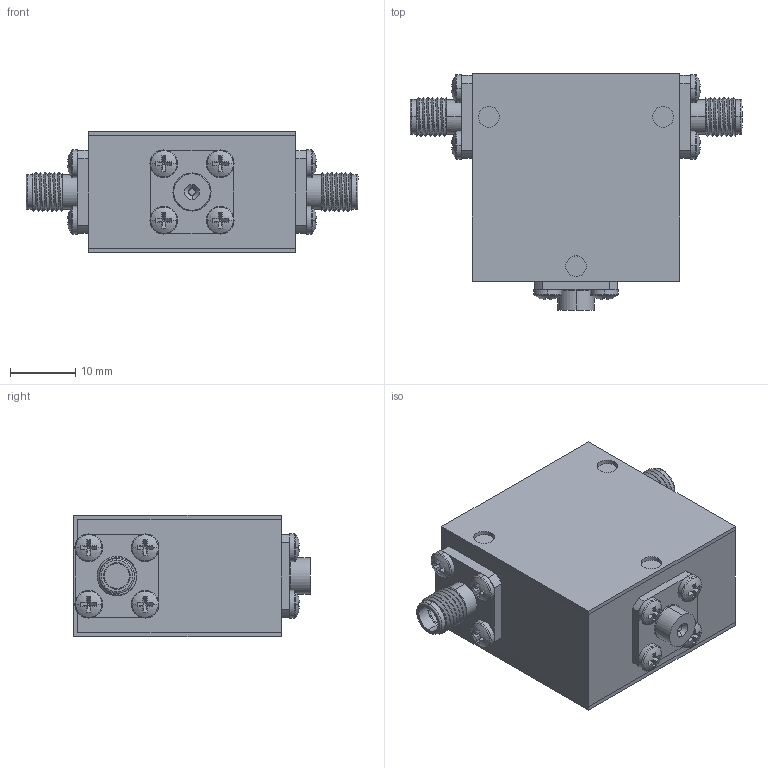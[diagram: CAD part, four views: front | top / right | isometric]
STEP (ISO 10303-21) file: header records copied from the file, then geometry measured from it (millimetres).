
FILE_DESCRIPTION (( 'STEP AP214' ), '1' );
FILE_NAME ('Package 8 Iso FF.step', '2021-12-01T21:02:22', ( '' ), ( '' ), 'SwSTEP 2.0', 'SolidWorks 2016', '' );
FILE_SCHEMA (( 'AUTOMOTIVE_DESIGN' ));
Length unit declared in the file: inch
Products named in the file (6): Package 8 Iso FF; Delta SMA-Female 0.500 flange Threaded; Package Size 8; pan cross head_ai_CR-PHMS 0.086-56x0.125x0.125-N; 030013-1A; Package 8
Assembly tree (17 placements, depth 2):
  Package 8 Iso FF
    Package Size 8
    Package 8
    Delta SMA-Female 0.500 flange Threaded  x2
    030013-1A
    pan cross head_ai_CR-PHMS 0.086-56x0.125x0.125-N  x12
Bounding box: 50.8 x 36.2 x 18.54 mm (x, y, z)
Volume: 19807.9 mm3; surface area: 12004.9 mm2
Topology: 17 solids, 17 shells, 414 faces, 942 edges, 582 vertices
Faces by surface type: plane 228, cylinder 122, torus 30, sphere 24, bspline 6, cone 4
Entity records: 4765 total; most frequent: CARTESIAN_POINT 1369, DIRECTION 717, ORIENTED_EDGE 594, EDGE_CURVE 297, AXIS2_PLACEMENT_3D 289, VERTEX_POINT 191, EDGE_LOOP 160, CIRCLE 150
